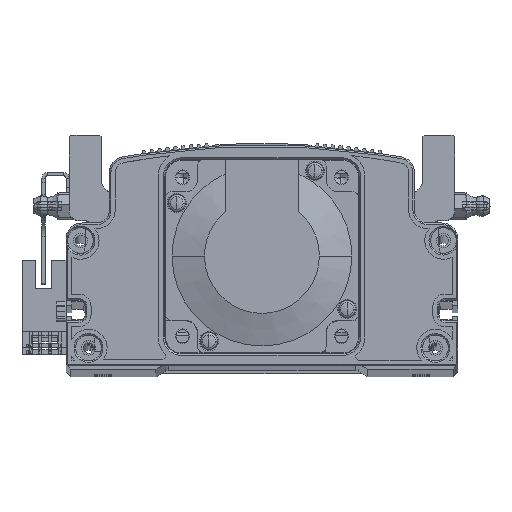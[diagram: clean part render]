
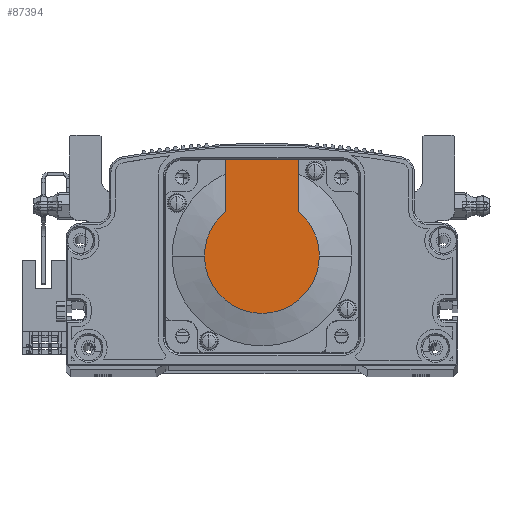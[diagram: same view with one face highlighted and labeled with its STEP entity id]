
A CAD part, top view. The second image highlights one B-rep face of the part: STEP entity #87394.
In plain terms, the highlighted planar face has unit normal (0, 0, 1) as drawn and (-1, 0, 0) by its records, which use the part's own axes.
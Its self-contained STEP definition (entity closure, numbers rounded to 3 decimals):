
#838 = CARTESIAN_POINT ( 'NONE',  ( -118.5, 30., 25. ) ) ;
#2960 = ORIENTED_EDGE ( 'NONE', *, *, #25625, .T. ) ;
#4079 = LINE ( 'NONE', #10460, #82669 ) ;
#4650 = CARTESIAN_POINT ( 'NONE',  ( -118.5, 13.735, 11.45 ) ) ;
#5941 = VERTEX_POINT ( 'NONE', #24456 ) ;
#7557 = AXIS2_PLACEMENT_3D ( 'NONE', #51307, #16888, #64388 ) ;
#8310 = CARTESIAN_POINT ( 'NONE',  ( -118.5, -8.941, 0. ) ) ;
#8620 = VECTOR ( 'NONE', #20447, 1000. ) ;
#10460 = CARTESIAN_POINT ( 'NONE',  ( -118.5, -8.941, -11.45 ) ) ;
#11379 = AXIS2_PLACEMENT_3D ( 'NONE', #8310, #15147, #77412 ) ;
#12948 = CARTESIAN_POINT ( 'NONE',  ( -118.5, 0., -17.881 ) ) ;
#15147 = DIRECTION ( 'NONE',  ( -1., 0., 0. ) ) ;
#16888 = DIRECTION ( 'NONE',  ( -1., 0., 0. ) ) ;
#18029 = ORIENTED_EDGE ( 'NONE', *, *, #34411, .T. ) ;
#19607 = VERTEX_POINT ( 'NONE', #4650 ) ;
#19856 = ORIENTED_EDGE ( 'NONE', *, *, #46918, .F. ) ;
#20447 = DIRECTION ( 'NONE',  ( 0., 0., 1. ) ) ;
#20790 = CARTESIAN_POINT ( 'NONE',  ( -118.5, 30., -11.45 ) ) ;
#24222 = DIRECTION ( 'NONE',  ( -1., 0., 0. ) ) ;
#24456 = CARTESIAN_POINT ( 'NONE',  ( -118.5, 0., 17.881 ) ) ;
#25625 = EDGE_CURVE ( 'NONE', #39458, #35781, #4079, .T. ) ;
#31105 = VERTEX_POINT ( 'NONE', #12948 ) ;
#34411 = EDGE_CURVE ( 'NONE', #31105, #5941, #63928, .T. ) ;
#35167 = AXIS2_PLACEMENT_3D ( 'NONE', #40063, #67169, #87589 ) ;
#35781 = VERTEX_POINT ( 'NONE', #78710 ) ;
#37074 = ORIENTED_EDGE ( 'NONE', *, *, #47293, .F. ) ;
#39458 = VERTEX_POINT ( 'NONE', #20790 ) ;
#40063 = CARTESIAN_POINT ( 'NONE',  ( -118.5, 0., 0. ) ) ;
#42490 = ORIENTED_EDGE ( 'NONE', *, *, #49123, .T. ) ;
#42531 = CARTESIAN_POINT ( 'NONE',  ( -118.5, 30., 11.45 ) ) ;
#44946 = DIRECTION ( 'NONE',  ( 0., 0., -1. ) ) ;
#46891 = FACE_OUTER_BOUND ( 'NONE', #49023, .T. ) ;
#46918 = EDGE_CURVE ( 'NONE', #85987, #19607, #84043, .T. ) ;
#47293 = EDGE_CURVE ( 'NONE', #39458, #85987, #80789, .T. ) ;
#49023 = EDGE_LOOP ( 'NONE', ( #2960, #66712, #18029, #42490, #19856, #37074 ) ) ;
#49123 = EDGE_CURVE ( 'NONE', #5941, #19607, #70232, .T. ) ;
#50956 = CARTESIAN_POINT ( 'NONE',  ( -118.5, 0., 0. ) ) ;
#51307 = CARTESIAN_POINT ( 'NONE',  ( -118.5, 0., 0. ) ) ;
#59465 = CIRCLE ( 'NONE', #7557, 17.881 ) ;
#61327 = DIRECTION ( 'NONE',  ( 0., -1., 0. ) ) ;
#63928 = CIRCLE ( 'NONE', #35167, 17.881 ) ;
#64388 = DIRECTION ( 'NONE',  ( 0., 0., -1. ) ) ;
#66712 = ORIENTED_EDGE ( 'NONE', *, *, #71393, .T. ) ;
#67169 = DIRECTION ( 'NONE',  ( -1., 0., 0. ) ) ;
#67891 = CARTESIAN_POINT ( 'NONE',  ( -118.5, 0., 11.45 ) ) ;
#69724 = PLANE ( 'NONE',  #11379 ) ;
#70232 = CIRCLE ( 'NONE', #87593, 17.881 ) ;
#71393 = EDGE_CURVE ( 'NONE', #35781, #31105, #59465, .T. ) ;
#71556 = DIRECTION ( 'NONE',  ( 0., -1., 0. ) ) ;
#72406 = VECTOR ( 'NONE', #61327, 1000. ) ;
#77412 = DIRECTION ( 'NONE',  ( 0., 0., 1. ) ) ;
#78710 = CARTESIAN_POINT ( 'NONE',  ( -118.5, 13.735, -11.45 ) ) ;
#80789 = LINE ( 'NONE', #838, #8620 ) ;
#82669 = VECTOR ( 'NONE', #71556, 1000. ) ;
#84043 = LINE ( 'NONE', #67891, #72406 ) ;
#85987 = VERTEX_POINT ( 'NONE', #42531 ) ;
#87394 = ADVANCED_FACE ( 'NONE', ( #46891 ), #69724, .T. ) ;
#87589 = DIRECTION ( 'NONE',  ( 0., 0., -1. ) ) ;
#87593 = AXIS2_PLACEMENT_3D ( 'NONE', #50956, #24222, #44946 ) ;
